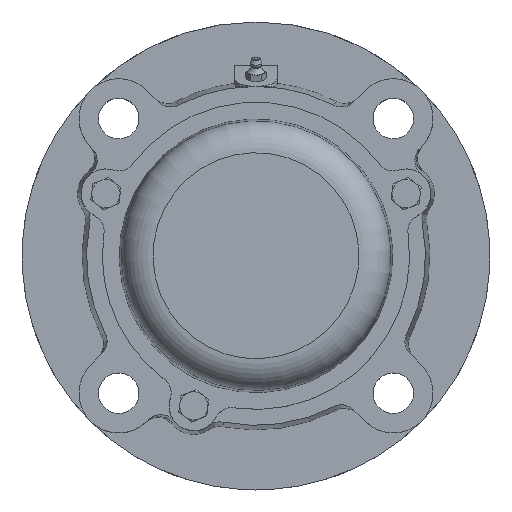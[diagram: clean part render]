
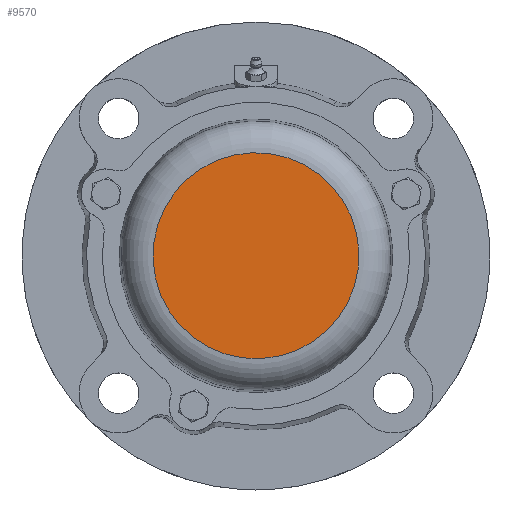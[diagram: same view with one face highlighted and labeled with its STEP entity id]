
A CAD part, top view. The second image highlights one B-rep face of the part: STEP entity #9570.
In plain terms, the highlighted planar face has unit normal (0, 0, 1).
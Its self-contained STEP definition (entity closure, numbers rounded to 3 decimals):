
#9539=CARTESIAN_POINT('',(-58.337,0.0,50.0));
#9540=VERTEX_POINT('',#9539);
#9541=CARTESIAN_POINT('',(0.0,0.0,50.0));
#9542=DIRECTION('',(0.0,0.0,-1.0));
#9543=DIRECTION('',(1.0,0.0,0.0));
#9544=AXIS2_PLACEMENT_3D('',#9541,#9542,#9543);
#9545=CIRCLE('',#9544,58.337);
#9546=EDGE_CURVE('',#9540,#9540,#9545,.T.);
#9562=CARTESIAN_POINT('',(0.0,0.0,50.0));
#9563=DIRECTION('',(0.0,0.0,-1.0));
#9564=DIRECTION('',(-1.0,0.0,0.0));
#9565=AXIS2_PLACEMENT_3D('',#9562,#9563,#9564);
#9566=PLANE('',#9565);
#9567=ORIENTED_EDGE('',*,*,#9546,.F.);
#9568=EDGE_LOOP('',(#9567));
#9569=FACE_OUTER_BOUND('',#9568,.T.);
#9570=ADVANCED_FACE('',(#9569),#9566,.F.);
